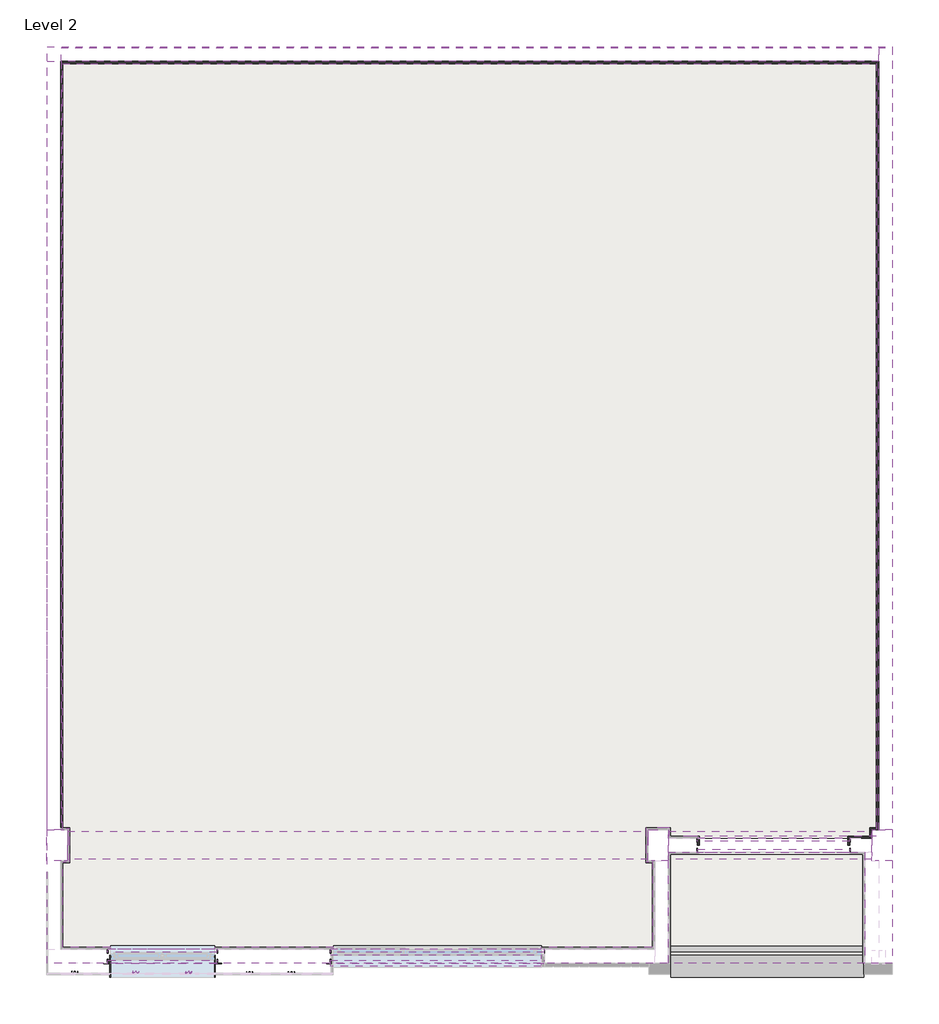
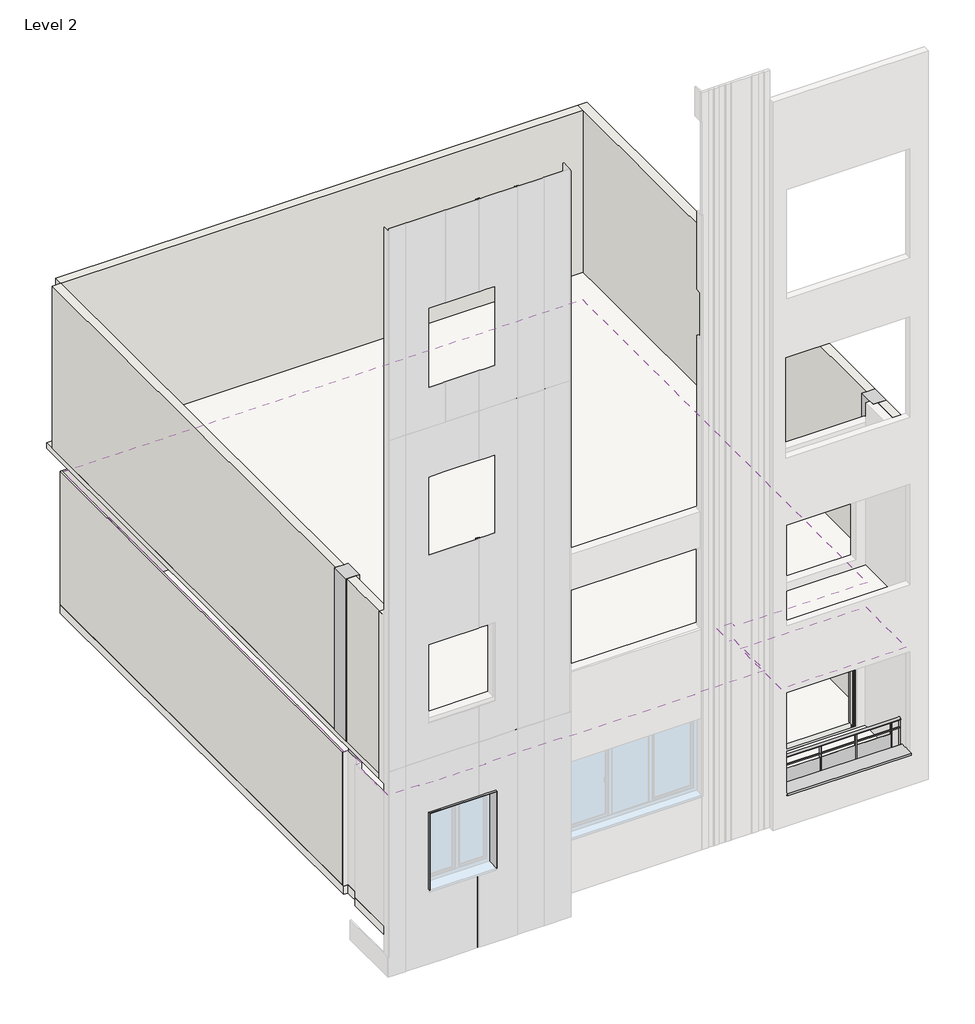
# One storey, part 3 of 3: 30 beams, 11 walls, 4 slabs, 3 columns, 2 coverings, 1 proxy, 1 railing.
"""IFC4 building model written with IfcOpenShell, lengths in millimetres."""

from ifc_helpers import new_model, si_unit, point, frame, origin, place, context, project, spatial, polyline, ellipse_curve, trimmed, outline, extrude, faceted_brep, transform, mapped, element, save
from ifc_brep_helpers import plane_surface, extruded_surface, advanced_brep
from components import bz1_80_profile_bz1_80_profile_443fb40e, bz1_m_profile_bz1_m_profile_78a34b38, bz1_m_profile_bz1_m_profile_84ef72e7, bz1_m_profile_bz1_m_profile_18d72951, bz1_m_profile_bz1_m_profile_995af08a, bz1_m_profile_bz1_m_profile_67f64d1a, bz1_m_profile_bz1_m_profile_64fc4bbf, bz1_l_profile_t01_17f12a1d, bz1_l_profile_t01_85f23635, bz1_l_profile_t01_c9825e95, bz1_l_profile_t01_ad5e237f, bz1_l_profile_t01_9d23476b, bz1_l_profile_t01_5d592bfc, bz1_wall_post_200_end_863f2b4e, bz1_wall_post_200_end_6934bf96, bz1_wall_post_200_end_fdf059dd, win_flashing_win_flashing_053a81bb

model = new_model("IFC4")

# Units and contexts
model_context = context("Model", 3, world=origin())
ifc_project = project(units=[si_unit("LENGTHUNIT", "METRE", prefix="MILLI")], contexts=[model_context])

# Site, building, storey
site = spatial("IfcSite", under=ifc_project)
building = spatial("IfcBuilding", under=site)
storey = spatial("IfcBuildingStorey", under=building, Name="Level 2", Elevation=4000.0)

# Beams
placement = place(None, origin())
bz1_80_profile_bz1_80_profile_shape = bz1_80_profile_bz1_80_profile_443fb40e(model_context)
element("IfcBeam", 1, ObjectType="BZ1-80_Profile : BZ1-80_Profile", at=placement, inside=storey, context=model_context, shape_type="MappedRepresentation", body=[
    mapped(bz1_80_profile_bz1_80_profile_shape, transform((-2103.0666589, -5187.8329808, 3479.0), x_axis=(0.0, 0.0, 1.0), y_axis=(-1.0, 0.0, 0.0), z_axis=(0.0, -1.0, 0.0))),
])
element("IfcBeam", 2, ObjectType="BZ1-80_Profile : BZ1-80_Profile", at=placement, inside=storey, context=model_context, shape_type="MappedRepresentation", body=[
    mapped(bz1_80_profile_bz1_80_profile_shape, transform((-2093.0666589, -4668.8329808, 3479.0), x_axis=(0.0, 0.0, 1.0), y_axis=(-1.0, 0.0, 0.0), z_axis=(0.0, -1.0, 0.0))),
])
element("IfcBeam", 3, ObjectType="BZ1-80_Profile : BZ1-80_Profile", at=placement, inside=storey, context=model_context, shape_type="MappedRepresentation", body=[
    mapped(bz1_80_profile_bz1_80_profile_shape, transform((-2883.0666589, -5187.8329808, 3479.0), x_axis=(0.0, 0.0, 1.0), y_axis=(-1.0, 0.0, 0.0), z_axis=(0.0, -1.0, 0.0))),
])
element("IfcBeam", 4, ObjectType="BZ1-80_Profile : BZ1-80_Profile", at=placement, inside=storey, context=model_context, shape_type="MappedRepresentation", body=[
    mapped(bz1_80_profile_bz1_80_profile_shape, transform((-2873.0666589, -4668.8329808, 3479.0), x_axis=(0.0, 0.0, 1.0), y_axis=(-1.0, 0.0, 0.0), z_axis=(0.0, -1.0, 0.0))),
])
bz1_m_profile_bz1_m_profile_shape = bz1_m_profile_bz1_m_profile_78a34b38(model_context)
element("IfcBeam", 5, ObjectType="BZ1-M_Profile : BZ1-M_Profile", at=placement, inside=storey, context=model_context, shape_type="MappedRepresentation", body=[
    mapped(bz1_m_profile_bz1_m_profile_shape, transform((-680.5666589, -5821.9647185, 12058.5946222), x_axis=(0.0, 0.0, -1.0), y_axis=(1.0, 0.0, 0.0), z_axis=(0.0, -1.0, 0.0))),
])
element("IfcBeam", 6, ObjectType="BZ1-M_Profile : BZ1-M_Profile", at=placement, inside=storey, context=model_context, shape_type="MappedRepresentation", body=[
    mapped(bz1_m_profile_bz1_m_profile_shape, transform((-3805.5666589, -5819.4647185, 12058.5946222), x_axis=(0.0, 0.0, -1.0), y_axis=(1.0, 0.0, 0.0), z_axis=(0.0, -1.0, 0.0))),
])
bz1_m_profile_bz1_m_profile_2_shape = bz1_m_profile_bz1_m_profile_84ef72e7(model_context)
element("IfcBeam", 7, ObjectType="BZ1-M_Profile : BZ1-M_Profile", at=placement, inside=storey, context=model_context, shape_type="MappedRepresentation", body=[
    mapped(bz1_m_profile_bz1_m_profile_2_shape, transform((-2164.3166589, -5819.4647185, 19902.5), x_axis=(0.0, 0.0, -1.0), y_axis=(1.0, 0.0, 0.0), z_axis=(0.0, -1.0, 0.0))),
])
bz1_m_profile_bz1_m_profile_3_shape = bz1_m_profile_bz1_m_profile_18d72951(model_context)
element("IfcBeam", 8, ObjectType="BZ1-M_Profile : BZ1-M_Profile", at=placement, inside=storey, context=model_context, shape_type="MappedRepresentation", body=[
    mapped(bz1_m_profile_bz1_m_profile_3_shape, transform((-2925.5666589, -5819.4647185, 19882.0946222), x_axis=(0.0, 0.0, -1.0), y_axis=(1.0, 0.0, 0.0), z_axis=(0.0, -1.0, 0.0))),
])
bz1_m_profile_bz1_m_profile_4_shape = bz1_m_profile_bz1_m_profile_995af08a(model_context)
element("IfcBeam", 9, ObjectType="BZ1-M_Profile : BZ1-M_Profile", at=placement, inside=storey, context=model_context, shape_type="MappedRepresentation", body=[
    mapped(bz1_m_profile_bz1_m_profile_4_shape, transform((-2164.3166589, -5820.0897185, 11854.5), x_axis=(0.0, 0.0, -1.0), y_axis=(1.0, 0.0, 0.0), z_axis=(0.0, -1.0, 0.0))),
])
bz1_m_profile_bz1_m_profile_5_shape = bz1_m_profile_bz1_m_profile_67f64d1a(model_context)
element("IfcBeam", 10, ObjectType="BZ1-M_Profile : BZ1-M_Profile", at=placement, inside=storey, context=model_context, shape_type="MappedRepresentation", body=[
    mapped(bz1_m_profile_bz1_m_profile_5_shape, transform((-2166.8166589, -5819.4647185, 4029.0), x_axis=(0.0, 0.0, -1.0), y_axis=(1.0, 0.0, 0.0), z_axis=(0.0, -1.0, 0.0))),
])
bz1_m_profile_bz1_m_profile_6_shape = bz1_m_profile_bz1_m_profile_64fc4bbf(model_context)
element("IfcBeam", 11, ObjectType="BZ1-M_Profile : BZ1-M_Profile", at=placement, inside=storey, context=model_context, shape_type="MappedRepresentation", body=[
    mapped(bz1_m_profile_bz1_m_profile_6_shape, transform((-1284.3166589, -5821.9647185, 12058.5946222), x_axis=(0.0, 0.0, -1.0), y_axis=(1.0, 0.0, 0.0), z_axis=(0.0, -1.0, 0.0))),
])
bz1_l_profile_t01_shape = bz1_l_profile_t01_17f12a1d(model_context)
element("IfcBeam", 12, ObjectType="BZ1_L Profile : T01", at=placement, inside=storey, context=model_context, shape_type="MappedRepresentation", body=[
    mapped(bz1_l_profile_t01_shape, transform((2964.4333411, -5500.9647185, 6810.0), x_axis=(-1.0, 0.0, 0.0), y_axis=(0.0, 0.0, 1.0), z_axis=(0.0, 1.0, 0.0))),
])
bz1_l_profile_t01_2_shape = bz1_l_profile_t01_85f23635(model_context)
element("IfcBeam", 13, ObjectType="BZ1_L Profile : T01", at=placement, inside=storey, context=model_context, shape_type="MappedRepresentation", body=[
    mapped(bz1_l_profile_t01_2_shape, transform((-115.5666589, -5700.9647185, 6810.0), x_axis=(1.0, 0.0, 0.0), y_axis=(0.0, -1.0, 0.0), z_axis=(0.0, 0.0, -1.0))),
])
bz1_l_profile_t01_3_shape = bz1_l_profile_t01_c9825e95(model_context)
element("IfcBeam", 14, ObjectType="BZ1_L Profile : T01", at=placement, inside=storey, context=model_context, shape_type="MappedRepresentation", body=[
    mapped(bz1_l_profile_t01_3_shape, transform((-3330.5666589, -5700.9647185, 6810.0), x_axis=(1.0, 0.0, 0.0), y_axis=(0.0, -1.0, 0.0), z_axis=(0.0, 0.0, -1.0))),
])
bz1_l_profile_t01_4_shape = bz1_l_profile_t01_ad5e237f(model_context)
element("IfcBeam", 15, ObjectType="BZ1_L Profile : T01", at=placement, inside=storey, context=model_context, shape_type="MappedRepresentation", body=[
    mapped(bz1_l_profile_t01_4_shape, transform((-3330.5666589, -5500.9647185, 6810.0), x_axis=(1.0, 0.0, 0.0), y_axis=(0.0, -1.0, 0.0), z_axis=(0.0, 0.0, -1.0))),
])
bz1_l_profile_t01_5_shape = bz1_l_profile_t01_9d23476b(model_context)
element("IfcBeam", 16, ObjectType="BZ1_L Profile : T01", at=placement, inside=storey, context=model_context, shape_type="MappedRepresentation", body=[
    mapped(bz1_l_profile_t01_5_shape, transform((5174.4333411, -4100.9647185, 6405.0), x_axis=(1.0, 0.0, 0.0), y_axis=(0.0, -1.0, 0.0), z_axis=(0.0, 0.0, -1.0))),
])
bz1_l_profile_t01_6_shape = bz1_l_profile_t01_5d592bfc(model_context)
element("IfcBeam", 17, ObjectType="BZ1_L Profile : T01", at=placement, inside=storey, context=model_context, shape_type="MappedRepresentation", body=[
    mapped(bz1_l_profile_t01_6_shape, transform((5174.4333411, -3900.9647185, 6405.0), x_axis=(1.0, 0.0, 0.0), y_axis=(0.0, -1.0, 0.0), z_axis=(0.0, 0.0, -1.0))),
])
bz1_wall_post_200_end_shape = bz1_wall_post_200_end_863f2b4e(model_context)
element("IfcBeam", 18, ObjectType="BZ1_Wall post : 200 END", at=placement, inside=storey, context=model_context, shape_type="MappedRepresentation", body=[
    mapped(bz1_wall_post_200_end_shape, transform((-1750.5666589, -5600.9647185, 3800.0), x_axis=(1.0, 0.0, 0.0), y_axis=(0.0, 1.0, 0.0), z_axis=(0.0, 0.0, 1.0))),
])
element("IfcBeam", 19, ObjectType="BZ1_Wall post : 200 END", at=placement, inside=storey, context=model_context, shape_type="MappedRepresentation", body=[
    mapped(bz1_wall_post_200_end_shape, transform((-3330.5666589, -5600.9647185, 3800.0), x_axis=(-1.0, 0.0, 0.0), y_axis=(0.0, -1.0, 0.0), z_axis=(0.0, 0.0, 1.0))),
])
element("IfcBeam", 20, ObjectType="BZ1_Wall post : 200 END", at=placement, inside=storey, context=model_context, shape_type="MappedRepresentation", body=[
    mapped(bz1_wall_post_200_end_shape, transform((2964.4333411, -5600.9647185, 3800.0), x_axis=(1.0, 0.0, 0.0), y_axis=(0.0, 1.0, 0.0), z_axis=(0.0, 0.0, 1.0))),
])
element("IfcBeam", 21, ObjectType="BZ1_Wall post : 200 END", at=placement, inside=storey, context=model_context, shape_type="MappedRepresentation", body=[
    mapped(bz1_wall_post_200_end_shape, transform((-115.5666589, -5600.9647185, 3800.0), x_axis=(-1.0, 0.0, 0.0), y_axis=(0.0, -1.0, 0.0), z_axis=(0.0, 0.0, 1.0))),
])
element("IfcBeam", 22, ObjectType="BZ1_Wall post : 200 END", at=placement, inside=storey, context=model_context, shape_type="MappedRepresentation", body=[
    mapped(bz1_wall_post_200_end_shape, transform((5174.4333411, -4000.9647185, 4000.0), x_axis=(-1.0, 0.0, 0.0), y_axis=(0.0, -1.0, 0.0), z_axis=(0.0, 0.0, 1.0))),
])
element("IfcBeam", 23, ObjectType="BZ1_Wall post : 200 END", at=placement, inside=storey, context=model_context, shape_type="MappedRepresentation", body=[
    mapped(bz1_wall_post_200_end_shape, transform((7374.4333411, -4000.9647185, 3800.0), x_axis=(1.0, 0.0, 0.0), y_axis=(0.0, 1.0, 0.0), z_axis=(0.0, 0.0, 1.0))),
])
bz1_wall_post_200_end_2_shape = bz1_wall_post_200_end_6934bf96(model_context)
element("IfcBeam", 24, ObjectType="BZ1_Wall post : 200 END", at=placement, inside=storey, context=model_context, shape_type="MappedRepresentation", body=[
    mapped(bz1_wall_post_200_end_2_shape, transform((-115.5666589, -5600.9647185, 3800.0), x_axis=(1.0, 0.0, 0.0), y_axis=(0.0, 1.0, 0.0), z_axis=(0.0, 0.0, 1.0))),
])
element("IfcBeam", 25, ObjectType="BZ1_Wall post : 200 END", at=placement, inside=storey, context=model_context, shape_type="MappedRepresentation", body=[
    mapped(bz1_wall_post_200_end_2_shape, transform((-3330.5666589, -5600.9647185, 3800.0), x_axis=(1.0, 0.0, 0.0), y_axis=(0.0, 1.0, 0.0), z_axis=(0.0, 0.0, 1.0))),
])
bz1_wall_post_200_end_3_shape = bz1_wall_post_200_end_fdf059dd(model_context)
element("IfcBeam", 26, ObjectType="BZ1_Wall post : 200 END", at=placement, inside=storey, context=model_context, shape_type="MappedRepresentation", body=[
    mapped(bz1_wall_post_200_end_3_shape, transform((2964.4333411, -5600.9647185, 3800.0), x_axis=(-1.0, 0.0, 0.0), y_axis=(0.0, -1.0, 0.0), z_axis=(0.0, 0.0, 1.0))),
])
element("IfcBeam", 27, ObjectType="BZ1_Wall post : 200 END", at=placement, inside=storey, context=model_context, shape_type="MappedRepresentation", body=[
    mapped(bz1_wall_post_200_end_3_shape, transform((-1750.5666589, -5600.9647185, 3800.0), x_axis=(-1.0, 0.0, 0.0), y_axis=(0.0, -1.0, 0.0), z_axis=(0.0, 0.0, 1.0))),
])
element("IfcBeam", 28, ObjectType="M_Concrete-Rectangular Beam : 400 x 600mm", at=placement, inside=storey, context=model_context, shape_type="SweptSolid", body=[
    extrude(outline(polyline([(4459.4333411, -3800.9647185), (4459.4333411, -4200.9647185), (-3910.5666589, -4200.9647185), (-3910.5666589, -3800.9647185), (4459.4333411, -3800.9647185)])), frame((0.0, 0.0, 7200.0), z_axis=(0.0, 0.0, 1.0), x_axis=(1.0, 0.0, 0.0)), (0.0, 0.0, 1.0), 470.0),
])
element("IfcBeam", 29, ObjectType="M_Concrete-Rectangular Beam : 400 x 600mm", at=placement, inside=storey, context=model_context, shape_type="Brep", body=[
    faceted_brep([(4759.4333411, -4200.9647185, 7200.0), (7689.4333411, -4200.9647185, 7200.0), (7689.4333411, -4200.9647185, 7670.0), (4759.4333411, -4200.9647185, 7670.0), (4759.4333411, -4100.9647185, 7200.0), (4759.4333411, -3900.9647185, 7200.0), (4759.4333411, -3800.9647185, 7200.0), (7689.4333411, -3800.9647185, 7200.0), (7689.4333411, -3900.9647185, 7200.0), (7689.4333411, -4100.9647185, 7200.0), (4759.4333411, -3800.9647185, 7670.0), (7689.4333411, -3800.9647185, 7670.0)], [[[0, 1, 2, 3]], [[0, 4, 5, 6, 7, 8, 9, 1]], [[7, 6, 10, 11]], [[6, 5, 4, 0, 3, 10]], [[2, 1, 9, 8, 7, 11]], [[3, 2, 11, 10]]]),
])
win_flashing_win_flashing_shape = win_flashing_win_flashing_053a81bb(model_context)
element("IfcBeam", 30, ObjectType="win-flashing4 : win-flashing", at=placement, inside=storey, context=model_context, shape_type="MappedRepresentation", body=[
    mapped(win_flashing_win_flashing_shape, transform((0.0, 0.0, -4002.0), x_axis=(1.0, 0.0, 0.0), y_axis=(0.0, 1.0, 0.0), z_axis=(0.0, 0.0, 1.0))),
])

# Proxy
element("IfcBuildingElementProxy", 31, Name="Wall Sweeps", at=placement, inside=storey, context=model_context, shape_type="SweptSolid", body=[
    extrude(outline(polyline([(-5906.4010883, 4409.8257), (-5584.774646, 4439.7589035), (-5584.774646, 4353.8282212), (-5584.774646, 4341.454394), (-5614.774646, 4341.454394), (-5614.774646, 4355.8282212), (-5612.774646, 4355.8282212), (-5612.774646, 4343.454394), (-5586.774646, 4343.454394), (-5586.774646, 4437.564124), (-5904.4010883, 4408.0031934), (-5904.4010883, 4363.454394), (-5864.4010883, 4363.454394), (-5864.4010883, 4341.454394), (-5866.4010883, 4341.454394), (-5866.4010883, 4361.454394), (-5906.4010883, 4361.454394), (-5906.4010883, 4409.8257)])), frame((4795.4333411, 0.0, 0.0), z_axis=(1.0, 0.0, 0.0), x_axis=(0.0, 1.0, 0.0)), (0.0, 0.0, 1.0), 2778.9947296),
])

# Columns
element("IfcColumn", 32, ObjectType="M_Concrete-Rectangular-Column : 300 x 450mm", at=placement, inside=storey, context=model_context, shape_type="Brep", body=[
    faceted_brep([(4759.4333411, -3775.9647185, 7800.0), (4759.4333411, -3900.9647185, 7800.0), (4759.4333411, -4100.9647185, 7800.0), (4759.4333411, -4225.9647185, 7800.0), (4559.4333411, -4225.9647185, 7800.0), (4459.4333411, -4225.9647185, 7800.0), (4459.4333411, -3775.9647185, 7800.0), (4759.4333411, -3775.9647185, 11670.0), (4759.4333411, -3800.9647185, 11670.0), (4759.4333411, -4200.9647185, 11670.0), (4759.4333411, -4225.9647185, 11670.0), (4559.4333411, -4225.9647185, 11670.0), (4459.4333411, -4225.9647185, 11670.0), (4459.4333411, -3775.9647185, 11670.0)], [[[0, 1, 2, 3, 4, 5, 6]], [[7, 8, 9, 10, 3, 2, 1, 0]], [[10, 11, 12, 5, 4, 3]], [[12, 13, 6, 5]], [[13, 7, 0, 6]], [[7, 13, 12, 11, 10, 9, 8]]]),
])
element("IfcColumn", 33, ObjectType="M_Concrete-Rectangular-Column : 300 x 450mm", at=placement, inside=storey, context=model_context, shape_type="Brep", body=[
    faceted_brep([(-3910.5666589, -3775.9647185, 7800.0), (-3910.5666589, -4225.9647185, 7800.0), (-4000.5666589, -4225.9647185, 7800.0), (-4200.5666589, -4225.9647185, 7800.0), (-4210.5666589, -4225.9647185, 7800.0), (-4210.5666589, -3775.9647185, 7800.0), (-4200.5666589, -3775.9647185, 7800.0), (-4000.5666589, -3775.9647185, 7800.0), (-3910.5666589, -3775.9647185, 11670.0), (-3910.5666589, -3800.9647185, 11670.0), (-3910.5666589, -4200.9647185, 11670.0), (-3910.5666589, -4225.9647185, 11670.0), (-4000.5666589, -4225.9647185, 11670.0), (-4200.5666589, -4225.9647185, 11670.0), (-4210.5666589, -4225.9647185, 11670.0), (-4210.5666589, -3775.9647185, 11670.0), (-4200.5666589, -3775.9647185, 11670.0), (-4000.5666589, -3775.9647185, 11670.0)], [[[0, 1, 2, 3, 4, 5, 6, 7]], [[8, 9, 10, 11, 1, 0]], [[11, 12, 13, 14, 4, 3, 2, 1]], [[14, 15, 5, 4]], [[15, 16, 17, 8, 0, 7, 6, 5]], [[8, 17, 16, 15, 14, 13, 12, 11, 10, 9]]]),
])
element("IfcColumn", 34, ObjectType="M_Concrete-Rectangular-Column : 300 x 450mm", at=placement, inside=storey, context=model_context, shape_type="Brep", body=[
    faceted_brep([(7989.4333411, -3775.9647185, 7800.0), (7989.4333411, -4225.9647185, 7800.0), (7789.4333411, -4225.9647185, 7800.0), (7689.4333411, -4225.9647185, 7800.0), (7689.4333411, -4100.9647185, 7800.0), (7689.4333411, -3900.9647185, 7800.0), (7689.4333411, -3775.9647185, 7800.0), (7789.4333411, -3775.9647185, 7800.0), (7989.4333411, -3775.9647185, 11670.0), (7989.4333411, -4225.9647185, 11670.0), (7789.4333411, -4225.9647185, 11670.0), (7689.4333411, -4225.9647185, 11670.0), (7689.4333411, -4100.9647185, 11670.0), (7689.4333411, -3775.9647185, 11670.0), (7789.4333411, -3775.9647185, 11670.0)], [[[0, 1, 2, 3, 4, 5, 6, 7]], [[8, 9, 1, 0]], [[9, 10, 11, 3, 2, 1]], [[11, 12, 13, 6, 5, 4, 3]], [[13, 14, 8, 0, 7, 6]], [[8, 14, 13, 12, 11, 10, 9]]]),
])

# Coverings
element("IfcCovering", 35, ObjectType="BZ1_FNCH_KANAF_2CM", at=placement, inside=storey, context=model_context, shape_type="SweptSolid", body=[
    extrude(outline(polyline([(4759.4333411, -5700.9647185), (4759.4333411, -4100.9647185), (7589.4333411, -4100.9647185), (7589.4333411, -5700.9647185), (4759.4333411, -5700.9647185)])), frame((0.0, 0.0, 6800.0), z_axis=(0.0, 0.0, 1.0), x_axis=(1.0, 0.0, 0.0)), (0.0, 0.0, 1.0), 20.0),
])
element("IfcCovering", 36, ObjectType="BZ1_FNCH_KANAF_2CM", at=placement, inside=storey, context=model_context, shape_type="SweptSolid", body=[
    extrude(outline(polyline([(-1790.5666589, -5470.9647185), (-1790.5666589, -5500.9647185), (-3290.5666589, -5500.9647185), (-3290.5666589, -5470.9647185), (-3980.5666589, -5470.9647185), (-3980.5666589, -4240.9647185), (-3880.5666589, -4240.9647185), (-3880.5666589, -3760.9647185), (-3980.5666589, -3760.9647185), (-3980.5666589, 7269.0352815), (7759.4333411, 7269.0352815), (7759.4333411, -3870.9647185), (5174.4333411, -3870.9647185), (4774.4333411, -3870.9647185), (4774.4333411, -3745.9647185), (4429.4333411, -3745.9647185), (4429.4333411, -4240.9647185), (4529.4333411, -4240.9647185), (4529.4333411, -5470.9647185), (2922.4333411, -5470.9647185), (2922.4333411, -5500.9647185), (-75.5666589, -5500.9647185), (-75.5666589, -5470.9647185), (-1790.5666589, -5470.9647185)])), frame((0.0, 0.0, 7180.0), z_axis=(0.0, 0.0, 1.0), x_axis=(1.0, 0.0, 0.0)), (0.0, 0.0, 1.0), 20.0),
])

# Railing
element("IfcRailing", 37, ObjectType="Glass Panel - Bottom Fill", at=placement, inside=storey, context=model_context, shape_type="SolidModel", body=[
    advanced_brep(
    [(7559.4333411, -5537.8554837, 5000.0), (7559.4333411, -5457.8554837, 5000.0), (4759.4333411, -5537.8554837, 5000.0), (4759.4333411, -5457.8554837, 5000.0)],
    [
        (0, 1, ellipse_curve(frame((7559.4333411, -5497.8554837, 5000.0), z_axis=(1.0, 0.0, 0.0), x_axis=(0.0, 1.0, 0.0)), 40.0, 30.0)),
        (1, 0, ellipse_curve(frame((7559.4333411, -5497.8554837, 5000.0), z_axis=(1.0, 0.0, 0.0), x_axis=(0.0, 1.0, 0.0)), 40.0, 30.0)),
        (2, 3, ellipse_curve(frame((4759.4333411, -5497.8554837, 5000.0), z_axis=(-1.0, 0.0, 0.0), x_axis=(0.0, 1.0, 0.0)), 40.0, 30.0)),
        (3, 2, ellipse_curve(frame((4759.4333411, -5497.8554837, 5000.0), z_axis=(-1.0, 0.0, 0.0), x_axis=(0.0, 1.0, 0.0)), 40.0, 30.0)),
        (0, 2),
        (3, 1),
    ],
    [
        plane_surface(frame((7559.4333411, -5497.8554837, 5000.0), z_axis=(1.0, 0.0, 0.0), x_axis=(0.0, -1.0, 0.0))),
        plane_surface(frame((4759.4333411, -5497.8554837, 5000.0), z_axis=(-1.0, 0.0, 0.0), x_axis=(0.0, -1.0, 0.0))),
        extruded_surface(trimmed(ellipse_curve(frame((4759.4333411, -5497.8554837, 5000.0), z_axis=(1.0, 0.0, 0.0), x_axis=(0.0, 1.0, 0.0)), 40.0, 30.0), [point((4759.4333411, -5537.8554837, 5000.0))], [point((4759.4333411, -5457.8554837, 5000.0))], True, "CARTESIAN"), (2800.0, 0.0, 0.0), 2800.0),
        extruded_surface(trimmed(ellipse_curve(frame((4759.4333411, -5497.8554837, 5000.0), z_axis=(1.0, 0.0, 0.0), x_axis=(0.0, 1.0, 0.0)), 40.0, 30.0), [point((4759.4333411, -5457.8554837, 5000.0))], [point((4759.4333411, -5537.8554837, 5000.0))], True, "CARTESIAN"), (2800.0, 0.0, 0.0), 2800.0),
    ],
    [
        (0, [[1, 2]]),
        (1, [[3, 4]]),
        (2, [[-1, 5, -4, 6]]),
        (3, [[-2, -6, -3, -5]]),
    ],
),
    extrude(outline(polyline([(7559.4333411, -5488.4647185), (7559.4333411, -5508.4647185), (4759.4333411, -5508.4647185), (4759.4333411, -5488.4647185), (7559.4333411, -5488.4647185)])), frame((0.0, 0.0, 4780.0), z_axis=(0.0, 0.0, 1.0), x_axis=(1.0, 0.0, 0.0)), (0.0, 0.0, 1.0), 20.0),
    extrude(outline(polyline([(4965.4333411, -5523.4647185), (4953.4333411, -5523.4647185), (4953.4333411, -5473.4647185), (4965.4333411, -5473.4647185), (4965.4333411, -5523.4647185)])), frame((0.0, 0.0, 4000.0), z_axis=(0.0, 0.0, 1.0), x_axis=(1.0, 0.0, 0.0)), (0.0, 0.0, 1.0), 970.0),
    extrude(outline(polyline([(5759.4333411, -5496.7399084), (4959.4333411, -5496.7399084), (4959.4333411, -5491.7399084), (5759.4333411, -5491.7399084), (5759.4333411, -5496.7399084)])), frame((0.0, 0.0, 4100.0), z_axis=(0.0, 0.0, 1.0), x_axis=(1.0, 0.0, 0.0)), (0.0, 0.0, 1.0), 600.0),
    extrude(outline(polyline([(5765.4333411, -5523.4647185), (5753.4333411, -5523.4647185), (5753.4333411, -5473.4647185), (5765.4333411, -5473.4647185), (5765.4333411, -5523.4647185)])), frame((0.0, 0.0, 4000.0), z_axis=(0.0, 0.0, 1.0), x_axis=(1.0, 0.0, 0.0)), (0.0, 0.0, 1.0), 970.0),
    extrude(outline(polyline([(6559.4333411, -5496.7399084), (5759.4333411, -5496.7399084), (5759.4333411, -5491.7399084), (6559.4333411, -5491.7399084), (6559.4333411, -5496.7399084)])), frame((0.0, 0.0, 4100.0), z_axis=(0.0, 0.0, 1.0), x_axis=(1.0, 0.0, 0.0)), (0.0, 0.0, 1.0), 600.0),
    extrude(outline(polyline([(6565.4333411, -5523.4647185), (6553.4333411, -5523.4647185), (6553.4333411, -5473.4647185), (6565.4333411, -5473.4647185), (6565.4333411, -5523.4647185)])), frame((0.0, 0.0, 4000.0), z_axis=(0.0, 0.0, 1.0), x_axis=(1.0, 0.0, 0.0)), (0.0, 0.0, 1.0), 970.0),
    extrude(outline(polyline([(7359.4333411, -5496.7399084), (6559.4333411, -5496.7399084), (6559.4333411, -5491.7399084), (7359.4333411, -5491.7399084), (7359.4333411, -5496.7399084)])), frame((0.0, 0.0, 4100.0), z_axis=(0.0, 0.0, 1.0), x_axis=(1.0, 0.0, 0.0)), (0.0, 0.0, 1.0), 600.0),
    extrude(outline(polyline([(7365.4333411, -5523.4647185), (7353.4333411, -5523.4647185), (7353.4333411, -5473.4647185), (7365.4333411, -5473.4647185), (7365.4333411, -5523.4647185)])), frame((0.0, 0.0, 4000.0), z_axis=(0.0, 0.0, 1.0), x_axis=(1.0, 0.0, 0.0)), (0.0, 0.0, 1.0), 970.0),
    extrude(outline(polyline([(4767.4333411, -5523.4647185), (4755.4333411, -5523.4647185), (4755.4333411, -5473.4647185), (4767.4333411, -5473.4647185), (4767.4333411, -5523.4647185)])), frame((0.0, 0.0, 4000.0), z_axis=(0.0, 0.0, 1.0), x_axis=(1.0, 0.0, 0.0)), (0.0, 0.0, 1.0), 970.0),
    extrude(outline(polyline([(7563.4333411, -5523.4647185), (7551.4333411, -5523.4647185), (7551.4333411, -5473.4647185), (7563.4333411, -5473.4647185), (7563.4333411, -5523.4647185)])), frame((0.0, 0.0, 4000.0), z_axis=(0.0, 0.0, 1.0), x_axis=(1.0, 0.0, 0.0)), (0.0, 0.0, 1.0), 970.0),
])

# Slabs
element("IfcSlab", 38, ObjectType="BZ1_Slab_Concrete_metaldeck-130", at=placement, inside=storey, context=model_context, shape_type="Brep", body=[
    faceted_brep([(7989.4333411, -5700.9647185, 7670.0), (-4200.5666589, -5700.9647185, 7670.0), (-4200.5666589, 7514.0352815, 7670.0), (7989.4333411, 7514.0352815, 7670.0), (7989.4333411, -5700.9647185, 7800.0), (7989.4333411, -4225.9647185, 7800.0), (7989.4333411, -3775.9647185, 7800.0), (7989.4333411, 7514.0352815, 7800.0), (-4200.5666589, 7514.0352815, 7800.0), (-4200.5666589, -5700.9647185, 7800.0)], [[[0, 1, 2, 3]], [[4, 5, 6, 7, 8, 9]], [[1, 0, 4, 9]], [[2, 1, 9, 8]], [[3, 2, 8, 7]], [[0, 3, 7, 6, 5, 4]]]),
])
element("IfcSlab", 39, ObjectType="BZ1_FNSH_White stucoo_3cm", at=placement, inside=storey, context=model_context, shape_type="Brep", body=[
    faceted_brep([(-115.5666589, -5576.3633875, 6770.0), (2922.4333411, -5576.3633875, 6770.0), (2922.4333411, -5700.9799478, 6770.0), (2922.4333411, -5743.4647185, 6770.0), (-80.2322612, -5743.4647185, 6770.0), (-115.5666589, -5743.4647185, 6770.0), (-115.5666589, -5576.3633875, 6810.0), (-115.5666589, -5743.4647185, 6810.0), (-80.2322612, -5743.4647185, 6810.0), (2922.4333411, -5743.4647185, 6810.0), (2922.4333411, -5700.9799478, 6810.0), (2922.4333411, -5576.3633875, 6810.0)], [[[0, 1, 2, 3, 4, 5]], [[6, 7, 8, 9, 10, 11]], [[1, 0, 6, 11]], [[3, 2, 1, 11, 10, 9]], [[5, 4, 3, 9, 8, 7]], [[0, 5, 7, 6]]]),
])
element("IfcSlab", 40, ObjectType="BZ1_FNSH_Ceramic Tile white_20mm", at=placement, inside=storey, context=model_context, shape_type="SweptSolid", body=[
    extrude(outline(polyline([(7689.4333411, -3900.9647185), (4759.4333411, -3900.9647185), (4759.4333411, -3775.9647185), (4459.4333411, -3775.9647185), (4459.4333411, -4225.9647185), (4559.4333411, -4225.9647185), (4559.4333411, -5500.9647185), (-4010.5666589, -5500.9647185), (-4010.5666589, -4225.9647185), (-3910.5666589, -4225.9647185), (-3910.5666589, -3775.9647185), (-4010.5666589, -3775.9647185), (-4010.5666589, 7299.0352815), (7789.4333411, 7299.0352815), (7789.4333411, -3775.9647185), (7689.4333411, -3775.9647185), (7689.4333411, -3900.9647185)])), frame((0.0, 0.0, 3800.0), z_axis=(0.0, 0.0, 1.0), x_axis=(1.0, 0.0, 0.0)), (0.0, 0.0, 1.0), 200.0),
])
element("IfcSlab", 41, ObjectType="BZ1_FNSH_Ceramic Tile blue_20mm", at=placement, inside=storey, context=model_context, shape_type="SweptSolid", body=[
    extrude(outline(polyline([(4789.4333411, -5620.3554823), (4789.4333411, -4130.9647185), (7559.4333411, -4130.9647185), (7559.4333411, -5620.3554823), (4789.4333411, -5620.3554823)])), frame((0.0, 0.0, 3800.0), z_axis=(0.0, 0.0, 1.0), x_axis=(1.0, 0.0, 0.0)), (0.0, 0.0, 1.0), 200.0),
])

# Walls
element("IfcWall", 42, ObjectType="BZ1_fnsh_gypsun3cm", at=placement, inside=storey, context=model_context, shape_type="Brep", body=[
    faceted_brep([(7759.4333411, 7299.0352815, 7200.0), (7759.4333411, 7299.0352815, 7180.0), (7759.4333411, 7299.0352815, 4000.0), (7759.4333411, 7269.0352815, 4000.0), (7759.4333411, -3745.9647185, 4000.0), (7759.4333411, -3775.9647185, 4000.0), (7759.4333411, -3775.9647185, 7184.6661592), (7759.4333411, -3775.9647185, 7200.0), (7789.4333411, 7299.0352815, 4000.0), (7789.4333411, 7299.0352815, 7200.0), (7789.4333411, -3775.9647185, 7200.0), (7789.4333411, -3775.9647185, 4000.0)], [[[0, 1, 2, 3, 4, 5, 6, 7]], [[8, 9, 10, 11]], [[5, 4, 3, 2, 8, 11]], [[0, 7, 10, 9]], [[7, 6, 5, 11, 10]], [[0, 9, 8, 2, 1]]]),
])
element("IfcWall", 43, ObjectType="BZ1_fnsh_gypsun3cm", at=placement, inside=storey, context=model_context, shape_type="Brep", body=[
    faceted_brep([(7759.4333411, -3745.9647185, 4000.0), (7659.4333411, -3745.9647185, 4000.0), (7659.4333411, -3745.9647185, 7184.6661592), (7759.4333411, -3745.9647185, 7184.6661592), (7759.4333411, -3775.9647185, 4000.0), (7759.4333411, -3775.9647185, 7184.6661592), (7659.4333411, -3775.9647185, 7184.6661592), (7659.4333411, -3775.9647185, 7180.0), (7659.4333411, -3775.9647185, 4000.0), (7689.4333411, -3775.9647185, 4000.0)], [[[0, 1, 2, 3]], [[4, 5, 6, 7, 8, 9]], [[1, 0, 4, 9, 8]], [[3, 2, 6, 5]], [[0, 3, 5, 4]], [[2, 1, 8, 7, 6]]]),
])
element("IfcWall", 44, ObjectType="BZ1_fnsh_gypsun3cm", at=placement, inside=storey, context=model_context, shape_type="Brep", body=[
    faceted_brep([(7659.4333411, -3775.9647185, 4000.0), (7659.4333411, -3900.9647185, 4000.0), (7659.4333411, -3900.9647185, 7300.0), (7659.4333411, -3870.9647185, 7300.0), (7659.4333411, -3870.9647185, 7180.0), (7659.4333411, -3775.9647185, 7180.0), (7689.4333411, -3775.9647185, 4000.0), (7689.4333411, -3775.9647185, 7180.0), (7689.4333411, -3870.9647185, 7180.0), (7689.4333411, -3870.9647185, 7300.0), (7689.4333411, -3900.9647185, 7300.0), (7689.4333411, -3900.9647185, 7200.0), (7689.4333411, -3900.9647185, 4000.0)], [[[0, 1, 2, 3, 4, 5]], [[6, 7, 8, 9, 10, 11, 12]], [[1, 0, 6, 12]], [[0, 5, 7, 6]], [[2, 1, 12, 11, 10]], [[3, 2, 10, 9]], [[3, 9, 8, 4]], [[5, 4, 8, 7]]]),
])
element("IfcWall", 45, ObjectType="BZ1_fnsh_gypsun3cm", at=placement, inside=storey, context=model_context, shape_type="Brep", body=[
    faceted_brep([(7659.4333411, -3870.9647185, 4000.0), (7344.4333411, -3870.9647185, 4000.0), (7344.4333411, -3870.9647185, 6400.0), (5204.4333411, -3870.9647185, 6400.0), (5174.4333411, -3870.9647185, 6400.0), (5174.4333411, -3870.9647185, 7200.0), (5204.4333411, -3870.9647185, 7200.0), (7659.4333411, -3870.9647185, 7200.0), (7659.4333411, -3870.9647185, 7180.0), (7659.4333411, -3900.9647185, 4000.0), (7659.4333411, -3900.9647185, 7200.0), (5204.4333411, -3900.9647185, 7200.0), (5174.4333411, -3900.9647185, 7200.0), (5174.4333411, -3900.9647185, 6400.0), (5204.4333411, -3900.9647185, 6400.0), (7344.4333411, -3900.9647185, 6400.0), (7344.4333411, -3900.9647185, 4000.0), (7374.4333411, -3900.9647185, 4000.0)], [[[0, 1, 2, 3, 4, 5, 6, 7, 8]], [[9, 10, 11, 12, 13, 14, 15, 16, 17]], [[0, 8, 7, 10, 9]], [[1, 0, 9, 17, 16]], [[4, 3, 2, 15, 14, 13]], [[5, 4, 13, 12]], [[7, 6, 5, 12, 11, 10]], [[2, 1, 16, 15]]]),
])
element("IfcWall", 46, ObjectType="BZ1_fnsh_gypsun3cm", at=placement, inside=storey, context=model_context, shape_type="SweptSolid", body=[
    extrude(outline(polyline([(7344.4333411, -4000.9647185), (7344.4333411, -3900.9647185), (7374.4333411, -3900.9647185), (7374.4333411, -4000.9647185), (7344.4333411, -4000.9647185)])), frame((0.0, 0.0, 4000.0), z_axis=(0.0, 0.0, 1.0), x_axis=(1.0, 0.0, 0.0)), (0.0, 0.0, 1.0), 2400.0),
])
element("IfcWall", 47, ObjectType="BZ1_fnsh_gypsun3cm", at=placement, inside=storey, context=model_context, shape_type="SweptSolid", body=[
    extrude(outline(polyline([(-3980.5666589, 7299.0352815), (-3980.5666589, -3745.9647185), (-4010.5666589, -3745.9647185), (-4010.5666589, 7299.0352815), (-3980.5666589, 7299.0352815)])), frame((0.0, 0.0, 4000.0), z_axis=(0.0, 0.0, 1.0), x_axis=(1.0, 0.0, 0.0)), (0.0, 0.0, 1.0), 3180.0),
])
element("IfcWall", 48, ObjectType="BZ1_fnsh_gypsun3cm", at=placement, inside=storey, context=model_context, shape_type="SweptSolid", body=[
    extrude(outline(polyline([(7759.4333411, 7269.0352815), (-4010.5666589, 7269.0352815), (-4010.5666589, 7299.0352815), (7759.4333411, 7299.0352815), (7759.4333411, 7269.0352815)])), frame((0.0, 0.0, 4000.0), z_axis=(0.0, 0.0, 1.0), x_axis=(1.0, 0.0, 0.0)), (0.0, 0.0, 1.0), 3180.0),
])
element("IfcWall", 49, ObjectType="BZ1_fnsh_gypsun3cm", at=placement, inside=storey, context=model_context, shape_type="Brep", body=[
    faceted_brep([(5174.4333411, -3900.9647185, 7300.0), (5174.4333411, -3900.9647185, 7200.0), (5174.4333411, -3900.9647185, 6400.0), (5174.4333411, -3900.9647185, 4000.0), (5174.4333411, -4000.9647185, 4000.0), (5174.4333411, -4000.9647185, 7300.0), (5204.4333411, -3900.9647185, 4000.0), (5204.4333411, -3900.9647185, 6400.0), (5204.4333411, -3900.9647185, 7200.0), (5204.4333411, -3900.9647185, 7300.0), (5204.4333411, -4000.9647185, 7300.0), (5204.4333411, -4000.9647185, 4000.0)], [[[0, 1, 2, 3, 4, 5]], [[6, 7, 8, 9, 10, 11]], [[4, 3, 6, 11]], [[5, 4, 11, 10]], [[0, 5, 10, 9]], [[0, 9, 8, 7, 6, 3, 2, 1]]]),
])
element("IfcWall", 50, ObjectType="BZ1-Core-Block-20cm", at=placement, inside=storey, context=model_context, shape_type="Brep", body=[
    faceted_brep([(-4000.5666589, -5715.9799478, 12000.0), (-4000.5666589, -5715.9799478, 7800.0), (-4000.5666589, -4225.9647185, 7800.0), (-4000.5666589, -4225.9647185, 11670.0), (-4000.5666589, -5700.9647185, 11670.0), (-4000.5666589, -5700.9647185, 12000.0), (-4200.5666589, -5715.9799478, 7800.0), (-4200.5666589, -5715.9799478, 12000.0), (-4200.5666589, -5700.9647185, 12000.0), (-4200.5666589, -5700.9647185, 11800.0), (-4200.5666589, -5700.9647185, 11670.0), (-4200.5666589, -4225.9647185, 11670.0), (-4200.5666589, -4225.9647185, 7800.0), (-4010.5666589, -5700.9647185, 12000.0)], [[[0, 1, 2, 3, 4, 5]], [[6, 7, 8, 9, 10, 11, 12]], [[3, 2, 12, 11]], [[2, 1, 6, 12]], [[1, 0, 7, 6]], [[7, 0, 5, 13, 8]], [[5, 4, 10, 9, 8, 13]], [[10, 4, 3, 11]]]),
    faceted_brep([(-4000.5666589, -3775.9647185, 11670.0), (-4000.5666589, -3775.9647185, 11180.0), (-4000.5666589, -3775.9647185, 8000.0), (-4000.5666589, -3775.9647185, 7800.0), (-4000.5666589, 7299.0352815, 7800.0), (-4000.5666589, 7299.0352815, 8000.0), (-4000.5666589, 7299.0352815, 11180.0), (-4000.5666589, 7299.0352815, 11670.0), (-4200.5666589, -3775.9647185, 7800.0), (-4200.5666589, -3775.9647185, 11670.0), (-4200.5666589, 7299.0352815, 11670.0), (-4200.5666589, 7299.0352815, 7800.0)], [[[0, 1, 2, 3, 4, 5, 6, 7]], [[8, 9, 10, 11]], [[3, 2, 1, 0, 9, 8]], [[7, 6, 5, 4, 11, 10]], [[4, 3, 8, 11]], [[7, 10, 9, 0]]]),
])
element("IfcWall", 51, ObjectType="BZ1-Core-Block-20cm", at=placement, inside=storey, context=model_context, shape_type="Brep", body=[
    faceted_brep([(7989.4333411, 7499.0352815, 7800.0), (7989.4333411, 7499.0352815, 11670.0), (7989.4333411, -3775.9647185, 11670.0), (7989.4333411, -3775.9647185, 7800.0), (7789.4333411, 7499.0352815, 11670.0), (7789.4333411, 7499.0352815, 7800.0), (7789.4333411, 7299.0352815, 7800.0), (7789.4333411, -3775.9647185, 7800.0), (7789.4333411, -3775.9647185, 11670.0), (7789.4333411, 7299.0352815, 11670.0)], [[[0, 1, 2, 3]], [[4, 5, 6, 7, 8, 9]], [[5, 0, 3, 7, 6]], [[1, 4, 9, 8, 2]], [[3, 2, 8, 7]], [[0, 5, 4, 1]]]),
    faceted_brep([(7989.4333411, -5700.9647185, 11670.0), (7989.4333411, -5700.9647185, 7800.0), (7989.4333411, -4225.9647185, 7800.0), (7989.4333411, -4225.9647185, 11670.0), (7789.4333411, -5700.9647185, 7800.0), (7789.4333411, -5700.9647185, 11670.0), (7789.4333411, -4225.9647185, 11670.0), (7789.4333411, -4225.9647185, 7800.0), (7789.4333411, -5515.9647185, 7800.0)], [[[0, 1, 2, 3]], [[4, 5, 6, 7, 8]], [[1, 4, 8, 7, 2]], [[5, 0, 3, 6]], [[3, 2, 7, 6]], [[4, 1, 0, 5]]]),
])
element("IfcWall", 52, ObjectType="BZ1-Core-Block-20cm", at=placement, inside=storey, context=model_context, shape_type="Brep", body=[
    faceted_brep([(7789.4333411, 7499.0352815, 11670.0), (7789.4333411, 7499.0352815, 7800.0), (-4000.5666589, 7499.0352815, 7800.0), (-4000.5666589, 7499.0352815, 11670.0), (7789.4333411, 7299.0352815, 7800.0), (7789.4333411, 7299.0352815, 8000.0), (7789.4333411, 7299.0352815, 11200.0), (7789.4333411, 7299.0352815, 11670.0), (-4000.5666589, 7299.0352815, 11670.0), (-4000.5666589, 7299.0352815, 7800.0)], [[[0, 1, 2, 3]], [[4, 5, 6, 7, 8, 9]], [[2, 1, 4, 9]], [[0, 3, 8, 7]], [[0, 7, 6, 5, 4, 1]], [[2, 9, 8, 3]]]),
])

save(model, "model.ifc")
